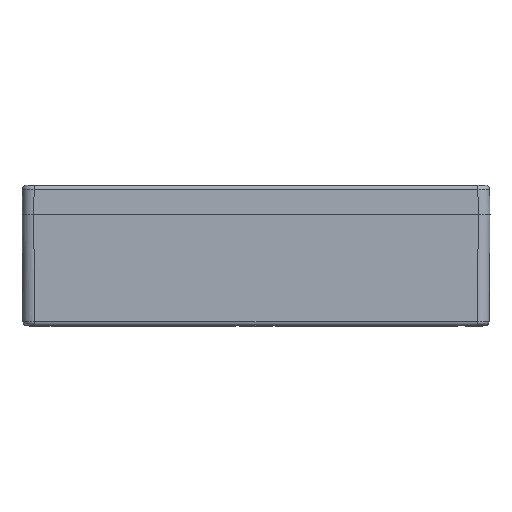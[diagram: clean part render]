
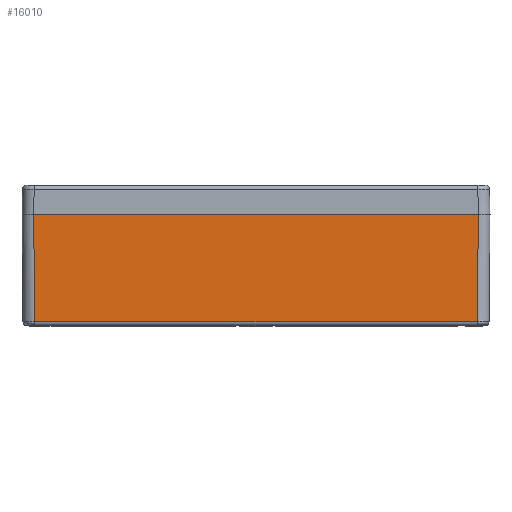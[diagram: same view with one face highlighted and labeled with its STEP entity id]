
A CAD part, front view. The second image highlights one B-rep face of the part: STEP entity #16010.
In plain terms, the highlighted planar face has unit normal (0, -1, -0.009).
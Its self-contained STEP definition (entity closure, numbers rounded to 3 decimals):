
#186 = VECTOR ( 'NONE', #8642, 1000. ) ;
#566 = AXIS2_PLACEMENT_3D ( 'NONE', #26392, #20768, #28881 ) ;
#821 = CARTESIAN_POINT ( 'NONE',  ( 189.202, -201.701, -91.531 ) ) ;
#933 = VERTEX_POINT ( 'NONE', #6056 ) ;
#4517 = FACE_OUTER_BOUND ( 'NONE', #23289, .T. ) ;
#6056 = CARTESIAN_POINT ( 'NONE',  ( 190., -202.5, 0. ) ) ;
#6205 = VERTEX_POINT ( 'NONE', #23081 ) ;
#7270 = CARTESIAN_POINT ( 'NONE',  ( -189.202, -201.701, -91.531 ) ) ;
#7325 = EDGE_CURVE ( 'NONE', #6205, #933, #28408, .T. ) ;
#8642 = DIRECTION ( 'NONE',  ( -1., 0., 0. ) ) ;
#10802 = VECTOR ( 'NONE', #25060, 1000. ) ;
#11578 = CARTESIAN_POINT ( 'NONE',  ( -189.971, -202.47, -3.403 ) ) ;
#13014 = PLANE ( 'NONE',  #566 ) ;
#13101 = ORIENTED_EDGE ( 'NONE', *, *, #32741, .F. ) ;
#13328 = LINE ( 'NONE', #11578, #10802 ) ;
#15953 = ORIENTED_EDGE ( 'NONE', *, *, #32653, .T. ) ;
#16010 = ADVANCED_FACE ( 'NONE', ( #4517 ), #13014, .T. ) ;
#16431 = VERTEX_POINT ( 'NONE', #19315 ) ;
#18033 = LINE ( 'NONE', #24823, #186 ) ;
#19315 = CARTESIAN_POINT ( 'NONE',  ( -190., -202.5, 0. ) ) ;
#19817 = DIRECTION ( 'NONE',  ( 0.009, -0.009, 1. ) ) ;
#20768 = DIRECTION ( 'NONE',  ( 0., -1., -0.009 ) ) ;
#21585 = ORIENTED_EDGE ( 'NONE', *, *, #23927, .F. ) ;
#23020 = CARTESIAN_POINT ( 'NONE',  ( 200., -201.701, -91.531 ) ) ;
#23081 = CARTESIAN_POINT ( 'NONE',  ( 189.202, -201.701, -91.531 ) ) ;
#23289 = EDGE_LOOP ( 'NONE', ( #25878, #15953, #13101, #21585 ) ) ;
#23927 = EDGE_CURVE ( 'NONE', #6205, #32105, #24076, .T. ) ;
#24076 = LINE ( 'NONE', #23020, #29569 ) ;
#24823 = CARTESIAN_POINT ( 'NONE',  ( 200., -202.5, 0. ) ) ;
#25060 = DIRECTION ( 'NONE',  ( -0.009, -0.009, 1. ) ) ;
#25821 = DIRECTION ( 'NONE',  ( -1., 0., 0. ) ) ;
#25878 = ORIENTED_EDGE ( 'NONE', *, *, #7325, .T. ) ;
#26392 = CARTESIAN_POINT ( 'NONE',  ( 200., -202.5, 0. ) ) ;
#28408 = LINE ( 'NONE', #821, #30489 ) ;
#28881 = DIRECTION ( 'NONE',  ( 0., 0.009, -1. ) ) ;
#29569 = VECTOR ( 'NONE', #25821, 1000. ) ;
#30489 = VECTOR ( 'NONE', #19817, 1000. ) ;
#32105 = VERTEX_POINT ( 'NONE', #7270 ) ;
#32653 = EDGE_CURVE ( 'NONE', #933, #16431, #18033, .T. ) ;
#32741 = EDGE_CURVE ( 'NONE', #32105, #16431, #13328, .T. ) ;
